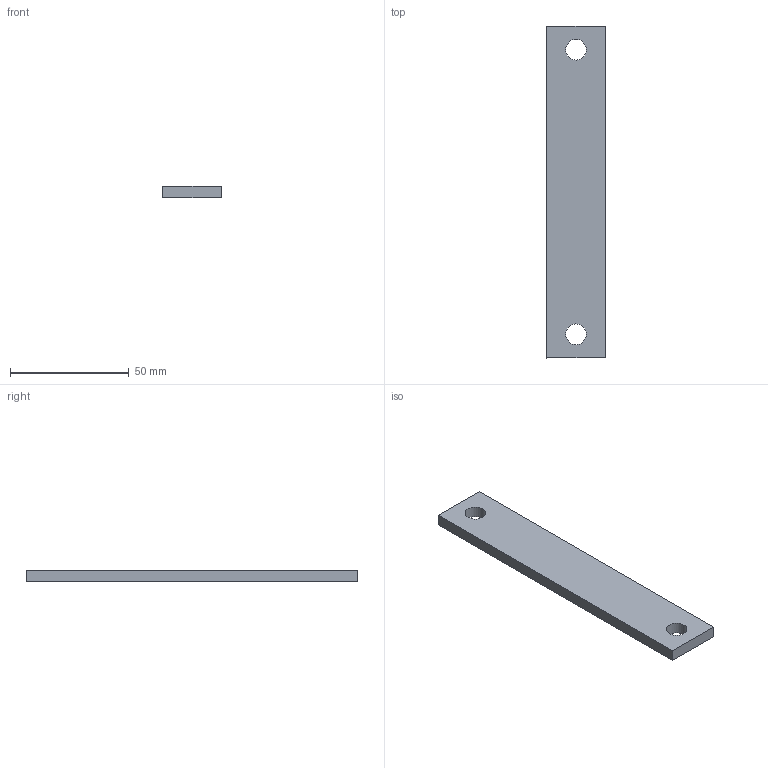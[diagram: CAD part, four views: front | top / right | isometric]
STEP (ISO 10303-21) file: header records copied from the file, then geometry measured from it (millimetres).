
FILE_DESCRIPTION (( 'STEP AP203' ), '1' );
FILE_NAME ('ORW-72.24.20.30.001 砑鳧罻.STEP', '2025-10-13T13:18:57', ( '燴僽樥' ), ( '' ), 'SwSTEP 2.0', 'SolidWorks 2025', '' );
FILE_SCHEMA (( 'CONFIG_CONTROL_DESIGN' ));
Length unit declared in the file: millimetre
Products named in the file (1): ORW-72.24.20.30.001 Планка
Bounding box: 24.5 x 140 x 5 mm (x, y, z)
Volume: 16548.7 mm3; surface area: 8539.4 mm2
Topology: 1 solids, 1 shells, 8 faces, 18 edges, 12 vertices
Faces by surface type: plane 6, cylinder 2
Full cylindrical faces by diameter (mm): 8.75 x2
Entity records: 299 total; most frequent: DIRECTION 38, CARTESIAN_POINT 37, ORIENTED_EDGE 32, EDGE_CURVE 16, EDGE_LOOP 14, AXIS2_PLACEMENT_3D 13, LINE 12, VECTOR 12
